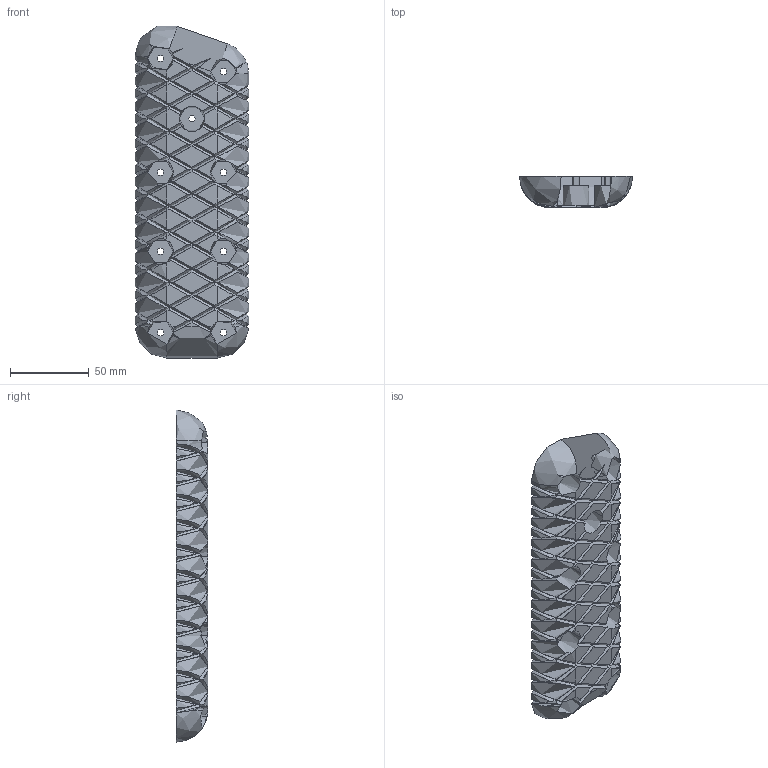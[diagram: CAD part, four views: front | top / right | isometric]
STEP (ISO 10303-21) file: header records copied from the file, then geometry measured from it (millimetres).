
FILE_DESCRIPTION((''),'2;1');
FILE_NAME('KD-D-601L_FOOT_PAD_LEFT','2025-07-12T16:47:17',('Administrator'),(''),'CREO PARAMETRIC BY PTC INC, 2022073','CREO PARAMETRIC BY PTC INC, 2022073','');
FILE_SCHEMA(('CONFIG_CONTROL_DESIGN'));
Length unit declared in the file: millimetre
Products named in the file (1): KD-D-601L_FOOT_PAD_LEFT
Bounding box: 72 x 20 x 210.99 mm (x, y, z)
Topology: 0 solids, 3 shells, 631 faces, 1590 edges, 957 vertices
Faces by surface type: plane 263, bspline 251, cylinder 112, sphere 5
Full cylindrical faces by diameter (mm): 40 x1
Entity records: 26754 total; most frequent: CARTESIAN_POINT 13741, ORIENTED_EDGE 3174, DIRECTION 1797, EDGE_CURVE 1587, VERTEX_POINT 958, VECTOR 813, LINE 813, B_SPLINE_CURVE_WITH_KNOTS 661
